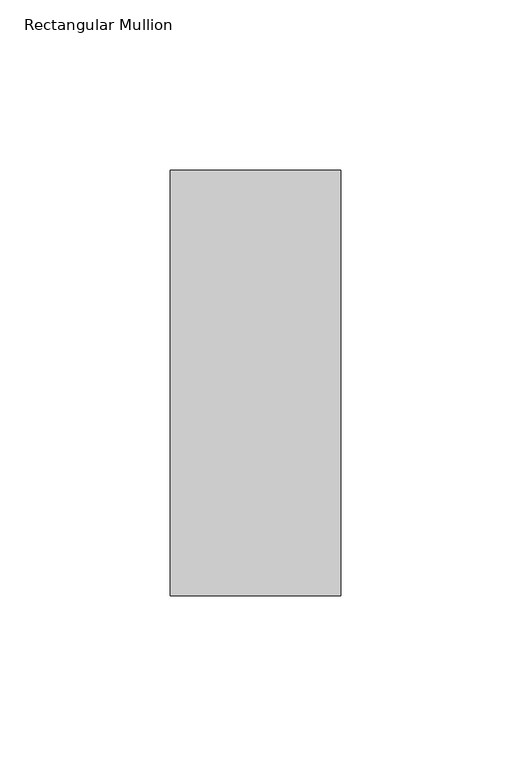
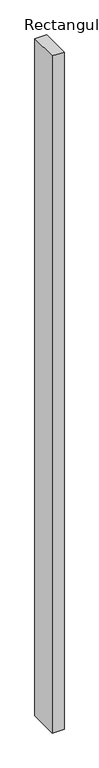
"""IFC4 building model written with IfcOpenShell, lengths in millimetres: member geometry, Rectangular Mullion : RSen_21_CWM_support profile - 50x125_gen_duco projects."""

from ifc_helpers import new_model, si_unit, frame, origin, place, context, project, spatial, polyline, outline, extrude, source, transform, mapped, element, save


def rectangular_mullion_16d87653(model_context):
    return source(origin(), model_context, "Body", "SweptSolid", [
        extrude(outline(polyline([(25.0, 1.0), (25.0, -124.0), (-25.0, -124.0), (-25.0, 1.0), (25.0, 1.0)])), frame((0.0, 0.0, -3000.0), z_axis=(0.0, 0.0, 1.0), x_axis=(1.0, 0.0, 0.0)), (0.0, 0.0, 1.0), 3000.0),
    ])


if __name__ == "__main__":
    model = new_model("IFC4")
    model_context = context("Model", 3, world=origin())
    ifc_project = project(units=[si_unit("LENGTHUNIT", "METRE", prefix="MILLI")], contexts=[model_context])
    site = spatial("IfcSite", under=ifc_project)
    building = spatial("IfcBuilding", under=site)
    placement = place(None, origin())
    rectangular_mullion_shape = rectangular_mullion_16d87653(model_context)
    element("IfcMember", 1, ObjectType="Rectangular Mullion : RSen_21_CWM_support profile - 50x125_gen_duco projects", at=placement, inside=building, context=model_context, shape_type="MappedRepresentation", body=[
        mapped(rectangular_mullion_shape, transform((0.0, 0.0, 0.0), x_axis=(1.0, 0.0, 0.0), y_axis=(0.0, 1.0, 0.0), z_axis=(0.0, 0.0, 1.0))),
    ])
    save(model, "model.ifc")
